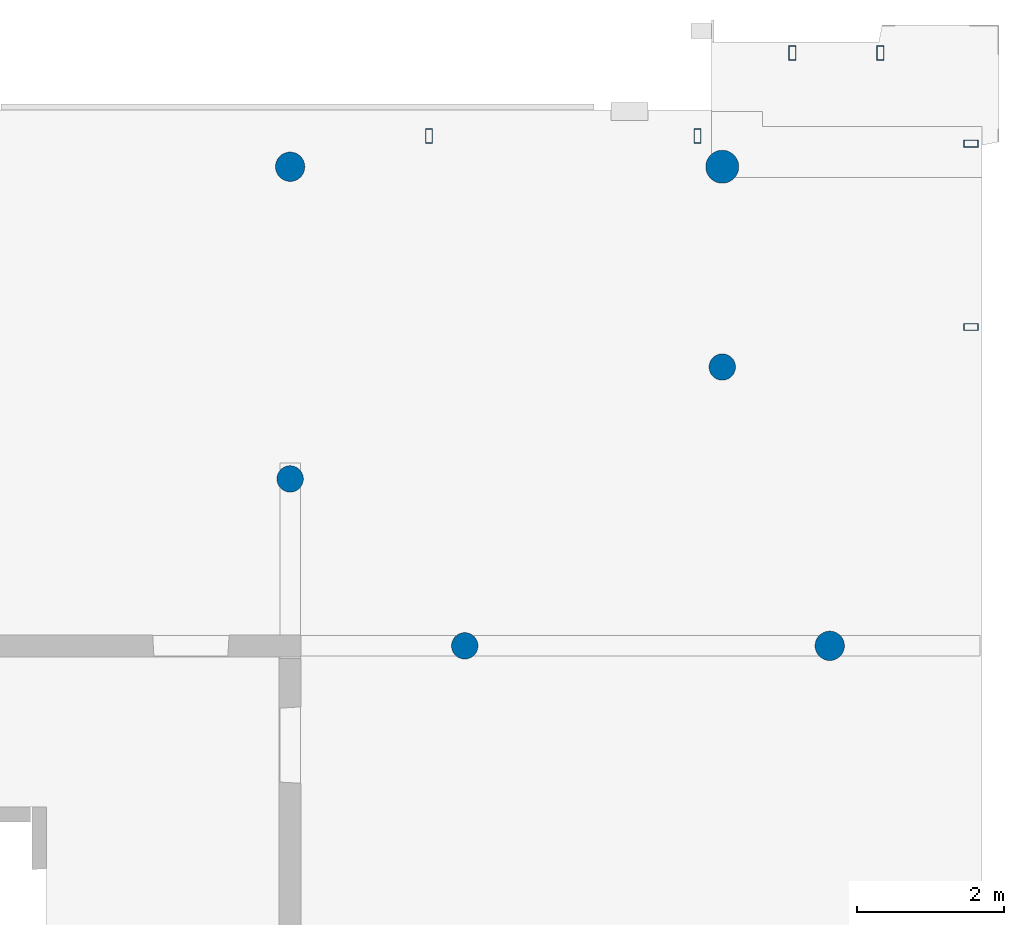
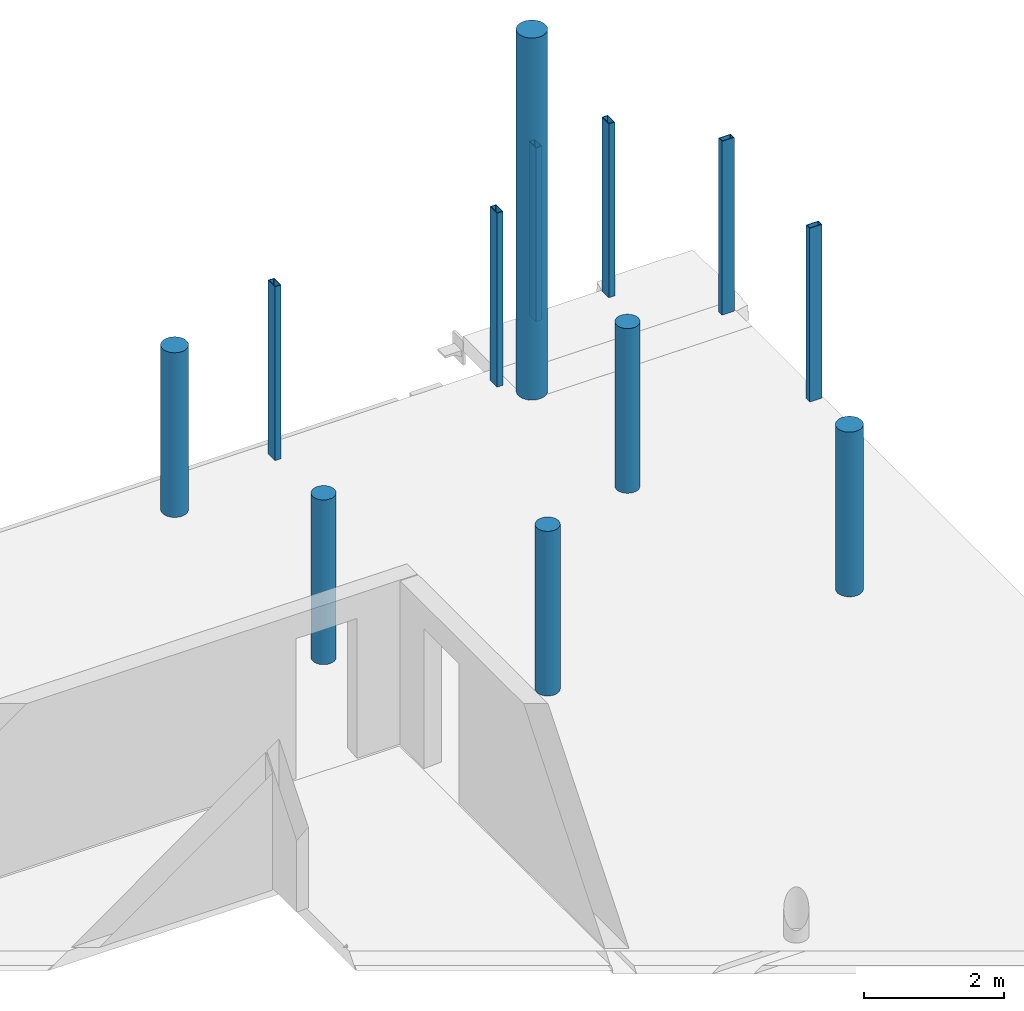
# One storey, part 4 of 7: 12 columns.
"""IFC2X3 building model written with IfcOpenShell, lengths in millimetres."""

from ifc_helpers import new_model, entity, si_unit, converted_unit, derived_unit, direction, frame, frame_2d, origin, origin_2d_with_axis, place, context, subcontext, project, spatial, polyline, circle_curve, parameter, trimmed, segment, composite_curve, circle, outline, extrude, source, transform, mapped, material, type_object, type_shapes, element, save


model = new_model("IFC2X3")

# Units and contexts
model_context = context("Model", 3, precision=0.01, world=origin(), true_north=direction((6.12303176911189e-17, 1.0)))
body_context = subcontext(model_context, "Body", "Model", "MODEL_VIEW")
ifc_project = project(units=[si_unit("LENGTHUNIT", "METRE", prefix="MILLI"), si_unit("AREAUNIT", "SQUARE_METRE"), si_unit("VOLUMEUNIT", "CUBIC_METRE"), converted_unit("PLANEANGLEUNIT", "DEGREE", entity("IfcRatioMeasure", 0.0174532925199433), si_unit("PLANEANGLEUNIT", "RADIAN"), dimensions=[0, 0, 0, 0, 0, 0, 0]), si_unit("MASSUNIT", "GRAM", prefix="KILO"), derived_unit("MASSDENSITYUNIT", [(si_unit("MASSUNIT", "GRAM", prefix="KILO"), 1), (si_unit("LENGTHUNIT", "METRE"), -3)]), si_unit("TIMEUNIT", "SECOND"), si_unit("FREQUENCYUNIT", "HERTZ"), si_unit("THERMODYNAMICTEMPERATUREUNIT", "DEGREE_CELSIUS"), derived_unit("THERMALTRANSMITTANCEUNIT", [(si_unit("MASSUNIT", "GRAM", prefix="KILO"), 1), (si_unit("THERMODYNAMICTEMPERATUREUNIT", "KELVIN"), -1), (si_unit("TIMEUNIT", "SECOND"), -3)]), derived_unit("VOLUMETRICFLOWRATEUNIT", [(si_unit("LENGTHUNIT", "METRE"), 3), (si_unit("TIMEUNIT", "SECOND"), -1)]), si_unit("ELECTRICCURRENTUNIT", "AMPERE"), si_unit("ELECTRICVOLTAGEUNIT", "VOLT"), si_unit("POWERUNIT", "WATT"), si_unit("FORCEUNIT", "NEWTON", prefix="KILO"), si_unit("ILLUMINANCEUNIT", "LUX"), si_unit("LUMINOUSFLUXUNIT", "LUMEN"), si_unit("LUMINOUSINTENSITYUNIT", "CANDELA"), derived_unit("USERDEFINED", [(si_unit("MASSUNIT", "GRAM", prefix="KILO"), -1), (si_unit("LENGTHUNIT", "METRE"), -2), (si_unit("TIMEUNIT", "SECOND"), 3), (si_unit("LUMINOUSFLUXUNIT", "LUMEN"), 1)]), derived_unit("LINEARVELOCITYUNIT", [(si_unit("LENGTHUNIT", "METRE"), 1), (si_unit("TIMEUNIT", "SECOND"), -1)]), si_unit("PRESSUREUNIT", "PASCAL"), derived_unit("USERDEFINED", [(si_unit("LENGTHUNIT", "METRE"), -2), (si_unit("MASSUNIT", "GRAM", prefix="KILO"), 1), (si_unit("TIMEUNIT", "SECOND"), -2)])], contexts=[model_context])

# Site, building, storey
site_placement = place(None, origin())
site = spatial("IfcSite", under=ifc_project, at=site_placement, Name="Default", CompositionType="ELEMENT")
building_placement = place(site_placement, origin())
building = spatial("IfcBuilding", under=site, at=building_placement, Name="niet gebruiken", CompositionType="ELEMENT")
storey_placement = place(building_placement, frame((0.0, 0.0, 165060.0)))
storey = spatial("IfcBuildingStorey", under=building, at=storey_placement, Name="53 drieënvijftigste verdieping", CompositionType="ELEMENT", Elevation=165060.0)

# Columns
ifc_material_1 = material(Name="NLRS_f2_beton prefab")
column_type_1 = type_object("IfcColumnType", Name="ø400", PredefinedType="COLUMN", material=ifc_material_1)
shared_shape_1 = source(origin(), body_context, "Body", "SweptSolid", [
    extrude(circle(Radius=199.999999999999, at=origin_2d_with_axis()), frame((147650.0, 31130.0, 164990.0), z_axis=(0.0, 0.0, 1.0), x_axis=(0.0, -1.0, 0.0)), (0.0, 0.0, 1.0), 2869.99999999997),
])
type_shapes(column_type_1, [shared_shape_1])
column_1_placement = place(storey_placement, frame((0.0, 0.0, -165060.0)))
element("IfcColumn", 1, at=column_1_placement, inside=storey, type_object=column_type_1, material=ifc_material_1, Name="NLRS_28. kolom rond_gen:ø400", ObjectType="ø400", context=body_context, shape_type="MappedRepresentation", body=[
    mapped(shared_shape_1, transform((0.0, 0.0, 0.0), scale=1.0)),
])
column_type_2 = type_object("IfcColumnType", Name="ø450", PredefinedType="COLUMN", material=ifc_material_1)
shared_shape_2 = source(origin(), body_context, "Body", "SweptSolid", [
    extrude(circle(Radius=225.0, at=origin_2d_with_axis()), frame((153540.0, 31130.0, 164990.0), z_axis=(0.0, 0.0, 1.0), x_axis=(0.0, -1.0, 0.0)), (0.0, 0.0, 1.0), 6309.99999999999),
])
type_shapes(column_type_2, [shared_shape_2])
column_2_placement = place(storey_placement, frame((0.0, 0.0, -165060.0)))
element("IfcColumn", 2, at=column_2_placement, inside=storey, type_object=column_type_2, material=ifc_material_1, Name="NLRS_28. kolom rond_gen:ø450", ObjectType="ø450", context=body_context, shape_type="MappedRepresentation", body=[
    mapped(shared_shape_2, transform((0.0, 0.0, 0.0), scale=1.0)),
])
column_type_3 = type_object("IfcColumnType", Name="ø360", PredefinedType="COLUMN", material=ifc_material_1)
shared_shape_3 = source(origin(), body_context, "Body", "SweptSolid", [
    extrude(circle(Radius=179.999999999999, at=origin_2d_with_axis()), frame((153540.0, 28400.0, 164990.0), z_axis=(0.0, 0.0, 1.0), x_axis=(0.0, -1.0, 0.0)), (0.0, 0.0, 1.0), 2869.99999999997),
])
type_shapes(column_type_3, [shared_shape_3])
column_3_placement = place(storey_placement, frame((0.0, 0.0, -165060.0)))
element("IfcColumn", 3, at=column_3_placement, inside=storey, type_object=column_type_3, material=ifc_material_1, Name="NLRS_28. kolom rond_gen:ø360", ObjectType="ø360", context=body_context, shape_type="MappedRepresentation", body=[
    mapped(shared_shape_3, transform((0.0, 0.0, 0.0), scale=1.0)),
])
column_type_4 = type_object("IfcColumnType", Name="ø400", PredefinedType="COLUMN", material=ifc_material_1)
shared_shape_4 = source(origin(), body_context, "Body", "SweptSolid", [
    extrude(circle(Radius=199.999999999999, at=origin_2d_with_axis()), frame((155005.0, 24600.0, 164990.0), z_axis=(0.0, 0.0, 1.0), x_axis=(0.0, -1.0, 0.0)), (0.0, 0.0, 1.0), 2869.99999999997),
])
type_shapes(column_type_4, [shared_shape_4])
column_4_placement = place(storey_placement, frame((0.0, 0.0, -165060.0)))
element("IfcColumn", 4, at=column_4_placement, inside=storey, type_object=column_type_4, material=ifc_material_1, Name="NLRS_28. kolom rond_gen:ø400", ObjectType="ø400", context=body_context, shape_type="MappedRepresentation", body=[
    mapped(shared_shape_4, transform((0.0, 0.0, 0.0), scale=1.0)),
])
column_type_5 = type_object("IfcColumnType", Name="ø360", PredefinedType="COLUMN", material=ifc_material_1)
shared_shape_5 = source(origin(), body_context, "Body", "SweptSolid", [
    extrude(circle(Radius=179.999999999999, at=origin_2d_with_axis()), frame((150030.0, 24600.0, 164990.0), z_axis=(0.0, 0.0, 1.0), x_axis=(0.0, -1.0, 0.0)), (0.0, 0.0, 1.0), 2869.99999999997),
])
type_shapes(column_type_5, [shared_shape_5])
column_5_placement = place(storey_placement, frame((0.0, 0.0, -165060.0)))
element("IfcColumn", 5, at=column_5_placement, inside=storey, type_object=column_type_5, material=ifc_material_1, Name="NLRS_28. kolom rond_gen:ø360", ObjectType="ø360", context=body_context, shape_type="MappedRepresentation", body=[
    mapped(shared_shape_5, transform((0.0, 0.0, 0.0), scale=1.0)),
])
column_type_6 = type_object("IfcColumnType", Name="ø360", PredefinedType="COLUMN", material=ifc_material_1)
shared_shape_6 = source(origin(), body_context, "Body", "SweptSolid", [
    extrude(circle(Radius=179.999999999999, at=origin_2d_with_axis()), frame((147650.0, 26875.0, 164990.0), z_axis=(0.0, 0.0, 1.0), x_axis=(0.0, -1.0, 0.0)), (0.0, 0.0, 1.0), 2869.99999999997),
])
type_shapes(column_type_6, [shared_shape_6])
column_6_placement = place(storey_placement, frame((0.0, 0.0, -165060.0)))
element("IfcColumn", 6, at=column_6_placement, inside=storey, type_object=column_type_6, material=ifc_material_1, Name="NLRS_28. kolom rond_gen:ø360", ObjectType="ø360", context=body_context, shape_type="MappedRepresentation", body=[
    mapped(shared_shape_6, transform((0.0, 0.0, 0.0), scale=1.0)),
])
ifc_material_2 = material(Name="NLRS_h2_staal")
column_type_7 = type_object("IfcColumnType", Name="kolom buisprofiel rechthoekig RHSH_200x100x10", PredefinedType="COLUMN", material=ifc_material_2)
shared_shape_7 = source(origin(), body_context, "Body", "SweptSolid", [
    extrude(outline(polyline([(-100.0, -50.0), (100.0, -50.0), (100.0, 50.0), (-100.0, 50.0), (-100.0, -50.0)]), holes=[composite_curve([segment(trimmed(circle_curve(frame_2d((-80.0, -30.0), x_axis=(0.0, 1.0)), 10.0), [parameter(90.0000000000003)], [parameter(180.0)], True, "PARAMETER"), False, "CONTINUOUS"), segment(polyline([(-90.0, -30.0), (-90.0, 30.0)]), True, "CONTINUOUS"), segment(trimmed(circle_curve(frame_2d((-80.0, 30.0), x_axis=(0.0, 1.0)), 10.0), [parameter(360.0)], [parameter(89.9999999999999)], True, "PARAMETER"), False, "CONTINUOUS"), segment(polyline([(-80.0, 40.0), (80.0, 40.0)]), True, "CONTINUOUS"), segment(trimmed(circle_curve(frame_2d((80.0, 30.0), x_axis=(0.0, 1.0)), 10.0), [parameter(270.0)], [parameter(360.0)], True, "PARAMETER"), False, "CONTINUOUS"), segment(polyline([(90.0, 30.0), (90.0, -30.0)]), True, "CONTINUOUS"), segment(trimmed(circle_curve(frame_2d((80.0, -30.0), x_axis=(0.0, 1.0)), 10.0), [parameter(180.0)], [parameter(270.0)], True, "PARAMETER"), False, "CONTINUOUS"), segment(polyline([(80.0, -40.0), (-80.0, -40.0)]), True, "CONTINUOUS")], self_intersect=False)]), frame((155695.0, 32680.0, 165000.0), z_axis=(0.0, 0.0, 1.0), x_axis=(0.0, 1.0, 0.0)), (0.0, 0.0, 1.0), 3029.69999999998),
])
type_shapes(column_type_7, [shared_shape_7])
column_7_placement = place(storey_placement, frame((0.0, 0.0, -165060.0)))
element("IfcColumn", 7, at=column_7_placement, inside=storey, type_object=column_type_7, material=ifc_material_2, Name="NLRS_28.11_SCO_TLB_stalen kolom buisprofiel rechthoekig_gen:kolom buisprofiel rechthoekig RHSH_200x100x10", ObjectType="kolom buisprofiel rechthoekig RHSH_200x100x10", context=body_context, shape_type="MappedRepresentation", body=[
    mapped(shared_shape_7, transform((0.0, 0.0, 0.0), scale=1.0)),
])
column_type_8 = type_object("IfcColumnType", Name="kolom buisprofiel rechthoekig RHSH_200x100x10", PredefinedType="COLUMN", material=ifc_material_2)
shared_shape_8 = source(origin(), body_context, "Body", "SweptSolid", [
    extrude(outline(polyline([(-100.0, -50.0), (100.0, -50.0), (100.0, 50.0), (-100.0, 50.0), (-100.0, -50.0)]), holes=[composite_curve([segment(trimmed(circle_curve(frame_2d((-80.0, -30.0), x_axis=(0.0, 1.0)), 10.0), [parameter(90.0000000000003)], [parameter(180.0)], True, "PARAMETER"), False, "CONTINUOUS"), segment(polyline([(-90.0, -30.0), (-90.0, 30.0)]), True, "CONTINUOUS"), segment(trimmed(circle_curve(frame_2d((-80.0, 30.0), x_axis=(0.0, 1.0)), 10.0), [parameter(360.0)], [parameter(89.9999999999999)], True, "PARAMETER"), False, "CONTINUOUS"), segment(polyline([(-80.0, 40.0), (80.0, 40.0)]), True, "CONTINUOUS"), segment(trimmed(circle_curve(frame_2d((80.0, 30.0), x_axis=(0.0, 1.0)), 10.0), [parameter(270.0)], [parameter(360.0)], True, "PARAMETER"), False, "CONTINUOUS"), segment(polyline([(90.0, 30.0), (90.0, -30.0)]), True, "CONTINUOUS"), segment(trimmed(circle_curve(frame_2d((80.0, -30.0), x_axis=(0.0, 1.0)), 10.0), [parameter(180.0)], [parameter(270.0)], True, "PARAMETER"), False, "CONTINUOUS"), segment(polyline([(80.0, -40.0), (-80.0, -40.0)]), True, "CONTINUOUS")], self_intersect=False)]), frame((154495.0, 32680.0, 165000.0), z_axis=(0.0, 0.0, 1.0), x_axis=(0.0, 1.0, 0.0)), (0.0, 0.0, 1.0), 3029.69999999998),
])
type_shapes(column_type_8, [shared_shape_8])
column_8_placement = place(storey_placement, frame((0.0, 0.0, -165060.0)))
element("IfcColumn", 8, at=column_8_placement, inside=storey, type_object=column_type_8, material=ifc_material_2, Name="NLRS_28.11_SCO_TLB_stalen kolom buisprofiel rechthoekig_gen:kolom buisprofiel rechthoekig RHSH_200x100x10", ObjectType="kolom buisprofiel rechthoekig RHSH_200x100x10", context=body_context, shape_type="MappedRepresentation", body=[
    mapped(shared_shape_8, transform((0.0, 0.0, 0.0), scale=1.0)),
])
column_type_9 = type_object("IfcColumnType", Name="kolom buisprofiel rechthoekig RHSH_200x100x10", PredefinedType="COLUMN", material=ifc_material_2)
shared_shape_9 = source(origin(), body_context, "Body", "SweptSolid", [
    extrude(outline(polyline([(-100.0, -50.0), (100.0, -50.0), (100.0, 50.0), (-100.0, 50.0), (-100.0, -50.0)]), holes=[composite_curve([segment(trimmed(circle_curve(frame_2d((-80.0, -30.0), x_axis=(0.0, 1.0)), 10.0), [parameter(90.0000000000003)], [parameter(180.0)], True, "PARAMETER"), False, "CONTINUOUS"), segment(polyline([(-90.0, -30.0), (-90.0, 30.0)]), True, "CONTINUOUS"), segment(trimmed(circle_curve(frame_2d((-80.0, 30.0), x_axis=(0.0, 1.0)), 10.0), [parameter(360.0)], [parameter(89.9999999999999)], True, "PARAMETER"), False, "CONTINUOUS"), segment(polyline([(-80.0, 40.0), (80.0, 40.0)]), True, "CONTINUOUS"), segment(trimmed(circle_curve(frame_2d((80.0, 30.0), x_axis=(0.0, 1.0)), 10.0), [parameter(270.0)], [parameter(360.0)], True, "PARAMETER"), False, "CONTINUOUS"), segment(polyline([(90.0, 30.0), (90.0, -30.0)]), True, "CONTINUOUS"), segment(trimmed(circle_curve(frame_2d((80.0, -30.0), x_axis=(0.0, 1.0)), 10.0), [parameter(180.0)], [parameter(270.0)], True, "PARAMETER"), False, "CONTINUOUS"), segment(polyline([(80.0, -40.0), (-80.0, -40.0)]), True, "CONTINUOUS")], self_intersect=False)]), frame((156930.0, 31445.0, 165000.0)), (0.0, 0.0, 1.0), 3029.69999999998),
])
type_shapes(column_type_9, [shared_shape_9])
column_9_placement = place(storey_placement, frame((0.0, 0.0, -165060.0)))
element("IfcColumn", 9, at=column_9_placement, inside=storey, type_object=column_type_9, material=ifc_material_2, Name="NLRS_28.11_SCO_TLB_stalen kolom buisprofiel rechthoekig_gen:kolom buisprofiel rechthoekig RHSH_200x100x10", ObjectType="kolom buisprofiel rechthoekig RHSH_200x100x10", context=body_context, shape_type="MappedRepresentation", body=[
    mapped(shared_shape_9, transform((0.0, 0.0, 0.0), scale=1.0)),
])
column_type_10 = type_object("IfcColumnType", Name="kolom buisprofiel rechthoekig RHSH_200x100x10", PredefinedType="COLUMN", material=ifc_material_2)
shared_shape_10 = source(origin(), body_context, "Body", "SweptSolid", [
    extrude(outline(polyline([(-100.0, -50.0), (100.0, -50.0), (100.0, 50.0), (-100.0, 50.0), (-100.0, -50.0)]), holes=[composite_curve([segment(trimmed(circle_curve(frame_2d((-80.0, -30.0), x_axis=(0.0, 1.0)), 10.0), [parameter(90.0000000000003)], [parameter(180.0)], True, "PARAMETER"), False, "CONTINUOUS"), segment(polyline([(-90.0, -30.0), (-90.0, 30.0)]), True, "CONTINUOUS"), segment(trimmed(circle_curve(frame_2d((-80.0, 30.0), x_axis=(0.0, 1.0)), 10.0), [parameter(360.0)], [parameter(89.9999999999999)], True, "PARAMETER"), False, "CONTINUOUS"), segment(polyline([(-80.0, 40.0), (80.0, 40.0)]), True, "CONTINUOUS"), segment(trimmed(circle_curve(frame_2d((80.0, 30.0), x_axis=(0.0, 1.0)), 10.0), [parameter(270.0)], [parameter(360.0)], True, "PARAMETER"), False, "CONTINUOUS"), segment(polyline([(90.0, 30.0), (90.0, -30.0)]), True, "CONTINUOUS"), segment(trimmed(circle_curve(frame_2d((80.0, -30.0), x_axis=(0.0, 1.0)), 10.0), [parameter(180.0)], [parameter(270.0)], True, "PARAMETER"), False, "CONTINUOUS"), segment(polyline([(80.0, -40.0), (-80.0, -40.0)]), True, "CONTINUOUS")], self_intersect=False)]), frame((156930.0, 28945.0, 165000.0)), (0.0, 0.0, 1.0), 3029.69999999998),
])
type_shapes(column_type_10, [shared_shape_10])
column_10_placement = place(storey_placement, frame((0.0, 0.0, -165060.0)))
element("IfcColumn", 10, at=column_10_placement, inside=storey, type_object=column_type_10, material=ifc_material_2, Name="NLRS_28.11_SCO_TLB_stalen kolom buisprofiel rechthoekig_gen:kolom buisprofiel rechthoekig RHSH_200x100x10", ObjectType="kolom buisprofiel rechthoekig RHSH_200x100x10", context=body_context, shape_type="MappedRepresentation", body=[
    mapped(shared_shape_10, transform((0.0, 0.0, 0.0), scale=1.0)),
])
column_type_11 = type_object("IfcColumnType", Name="kolom buisprofiel rechthoekig RHSH_200x100x10", PredefinedType="COLUMN", material=ifc_material_2)
shared_shape_11 = source(origin(), body_context, "Body", "SweptSolid", [
    extrude(outline(polyline([(-100.0, -50.0), (100.0, -50.0), (100.0, 50.0), (-100.0, 50.0), (-100.0, -50.0)]), holes=[composite_curve([segment(trimmed(circle_curve(frame_2d((-80.0, -30.0), x_axis=(0.0, 1.0)), 10.0), [parameter(90.0000000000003)], [parameter(180.0)], True, "PARAMETER"), False, "CONTINUOUS"), segment(polyline([(-90.0, -30.0), (-90.0, 30.0)]), True, "CONTINUOUS"), segment(trimmed(circle_curve(frame_2d((-80.0, 30.0), x_axis=(0.0, 1.0)), 10.0), [parameter(360.0)], [parameter(89.9999999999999)], True, "PARAMETER"), False, "CONTINUOUS"), segment(polyline([(-80.0, 40.0), (80.0, 40.0)]), True, "CONTINUOUS"), segment(trimmed(circle_curve(frame_2d((80.0, 30.0), x_axis=(0.0, 1.0)), 10.0), [parameter(270.0)], [parameter(360.0)], True, "PARAMETER"), False, "CONTINUOUS"), segment(polyline([(90.0, 30.0), (90.0, -30.0)]), True, "CONTINUOUS"), segment(trimmed(circle_curve(frame_2d((80.0, -30.0), x_axis=(0.0, 1.0)), 10.0), [parameter(180.0)], [parameter(270.0)], True, "PARAMETER"), False, "CONTINUOUS"), segment(polyline([(80.0, -40.0), (-80.0, -40.0)]), True, "CONTINUOUS")], self_intersect=False)]), frame((153202.0, 31548.9987649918, 165000.0), z_axis=(0.0, 0.0, 1.0), x_axis=(0.0, 1.0, 0.0)), (0.0, 0.0, 1.0), 3029.69999999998),
])
type_shapes(column_type_11, [shared_shape_11])
column_11_placement = place(storey_placement, frame((0.0, 0.0, -165060.0)))
element("IfcColumn", 11, at=column_11_placement, inside=storey, type_object=column_type_11, material=ifc_material_2, Name="NLRS_28.11_SCO_TLB_stalen kolom buisprofiel rechthoekig_gen:kolom buisprofiel rechthoekig RHSH_200x100x10", ObjectType="kolom buisprofiel rechthoekig RHSH_200x100x10", context=body_context, shape_type="MappedRepresentation", body=[
    mapped(shared_shape_11, transform((0.0, 0.0, 0.0), scale=1.0)),
])
column_type_12 = type_object("IfcColumnType", Name="kolom buisprofiel rechthoekig RHSH_200x100x10", PredefinedType="COLUMN", material=ifc_material_2)
shared_shape_12 = source(origin(), body_context, "Body", "SweptSolid", [
    extrude(outline(polyline([(-100.0, -50.0), (100.0, -50.0), (100.0, 50.0), (-100.0, 50.0), (-100.0, -50.0)]), holes=[composite_curve([segment(trimmed(circle_curve(frame_2d((-80.0, -30.0), x_axis=(0.0, 1.0)), 10.0), [parameter(90.0000000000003)], [parameter(180.0)], True, "PARAMETER"), False, "CONTINUOUS"), segment(polyline([(-90.0, -30.0), (-90.0, 30.0)]), True, "CONTINUOUS"), segment(trimmed(circle_curve(frame_2d((-80.0, 30.0), x_axis=(0.0, 1.0)), 10.0), [parameter(360.0)], [parameter(89.9999999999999)], True, "PARAMETER"), False, "CONTINUOUS"), segment(polyline([(-80.0, 40.0), (80.0, 40.0)]), True, "CONTINUOUS"), segment(trimmed(circle_curve(frame_2d((80.0, 30.0), x_axis=(0.0, 1.0)), 10.0), [parameter(270.0)], [parameter(360.0)], True, "PARAMETER"), False, "CONTINUOUS"), segment(polyline([(90.0, 30.0), (90.0, -30.0)]), True, "CONTINUOUS"), segment(trimmed(circle_curve(frame_2d((80.0, -30.0), x_axis=(0.0, 1.0)), 10.0), [parameter(180.0)], [parameter(270.0)], True, "PARAMETER"), False, "CONTINUOUS"), segment(polyline([(80.0, -40.0), (-80.0, -40.0)]), True, "CONTINUOUS")], self_intersect=False)]), frame((149542.0, 31549.0, 165000.0), z_axis=(0.0, 0.0, 1.0), x_axis=(0.0, 1.0, 0.0)), (0.0, 0.0, 1.0), 3029.69999999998),
])
type_shapes(column_type_12, [shared_shape_12])
column_12_placement = place(storey_placement, frame((0.0, 0.0, -165060.0)))
element("IfcColumn", 12, at=column_12_placement, inside=storey, type_object=column_type_12, material=ifc_material_2, Name="NLRS_28.11_SCO_TLB_stalen kolom buisprofiel rechthoekig_gen:kolom buisprofiel rechthoekig RHSH_200x100x10", ObjectType="kolom buisprofiel rechthoekig RHSH_200x100x10", context=body_context, shape_type="MappedRepresentation", body=[
    mapped(shared_shape_12, transform((0.0, 0.0, 0.0), scale=1.0)),
])

save(model, "model.ifc")
